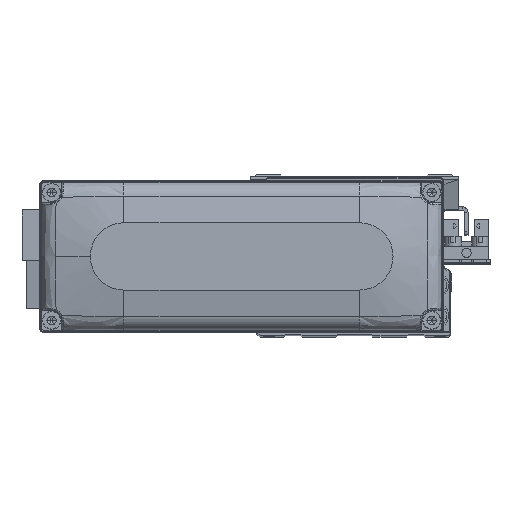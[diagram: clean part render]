
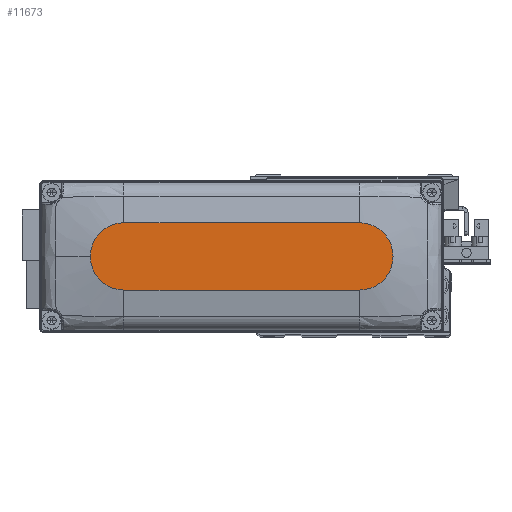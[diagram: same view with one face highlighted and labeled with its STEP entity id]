
A CAD part, top view. The second image highlights one B-rep face of the part: STEP entity #11673.
In plain terms, the highlighted planar face has unit normal (0, 0, 1).
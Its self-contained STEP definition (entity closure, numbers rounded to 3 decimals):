
#266 = LINE ( 'NONE', #13078, #12717 ) ;
#1035 = AXIS2_PLACEMENT_3D ( 'NONE', #13633, #26441, #39232 ) ;
#1201 = VECTOR ( 'NONE', #41446, 1000. ) ;
#4761 = ORIENTED_EDGE ( 'NONE', *, *, #32841, .T. ) ;
#4973 = VERTEX_POINT ( 'NONE', #14653 ) ;
#7475 = CARTESIAN_POINT ( 'NONE',  ( -35., 0., 28. ) ) ;
#7553 = CARTESIAN_POINT ( 'NONE',  ( -35., 10., 28. ) ) ;
#8080 = EDGE_CURVE ( 'NONE', #20126, #4973, #11302, .T. ) ;
#8421 = DIRECTION ( 'NONE',  ( 1., 0., 0. ) ) ;
#8891 = ORIENTED_EDGE ( 'NONE', *, *, #8080, .T. ) ;
#10538 = CARTESIAN_POINT ( 'NONE',  ( 0., 0., 28. ) ) ;
#11302 = CIRCLE ( 'NONE', #34775, 10. ) ;
#11673 = ADVANCED_FACE ( 'NONE', ( #26498 ), #39301, .T. ) ;
#12145 = VERTEX_POINT ( 'NONE', #35901 ) ;
#12717 = VECTOR ( 'NONE', #25902, 1000. ) ;
#13078 = CARTESIAN_POINT ( 'NONE',  ( -35., -10., 28. ) ) ;
#13552 = ORIENTED_EDGE ( 'NONE', *, *, #15063, .T. ) ;
#13633 = CARTESIAN_POINT ( 'NONE',  ( 35., 0., 28. ) ) ;
#14653 = CARTESIAN_POINT ( 'NONE',  ( -35., -10., 28. ) ) ;
#15063 = EDGE_CURVE ( 'NONE', #15836, #20126, #15842, .T. ) ;
#15836 = VERTEX_POINT ( 'NONE', #17863 ) ;
#15842 = LINE ( 'NONE', #28649, #1201 ) ;
#16203 = VERTEX_POINT ( 'NONE', #40239 ) ;
#16844 = CIRCLE ( 'NONE', #40298, 10. ) ;
#17863 = CARTESIAN_POINT ( 'NONE',  ( 35., 10., 28. ) ) ;
#19158 = CIRCLE ( 'NONE', #1035, 10. ) ;
#20126 = VERTEX_POINT ( 'NONE', #7553 ) ;
#20300 = DIRECTION ( 'NONE',  ( 0., 0., 1. ) ) ;
#20867 = EDGE_LOOP ( 'NONE', ( #13552, #8891, #33286, #4761, #22186 ) ) ;
#22186 = ORIENTED_EDGE ( 'NONE', *, *, #30898, .T. ) ;
#23362 = DIRECTION ( 'NONE',  ( 0., 0., 1. ) ) ;
#24413 = CARTESIAN_POINT ( 'NONE',  ( 35., 0., 28. ) ) ;
#25902 = DIRECTION ( 'NONE',  ( 1., 0., 0. ) ) ;
#26441 = DIRECTION ( 'NONE',  ( 0., 0., 1. ) ) ;
#26498 = FACE_OUTER_BOUND ( 'NONE', #20867, .T. ) ;
#28649 = CARTESIAN_POINT ( 'NONE',  ( -35., 10., 28. ) ) ;
#29647 = EDGE_CURVE ( 'NONE', #4973, #16203, #266, .T. ) ;
#30898 = EDGE_CURVE ( 'NONE', #12145, #15836, #16844, .T. ) ;
#32841 = EDGE_CURVE ( 'NONE', #16203, #12145, #19158, .T. ) ;
#33099 = DIRECTION ( 'NONE',  ( 1., 0., 0. ) ) ;
#33286 = ORIENTED_EDGE ( 'NONE', *, *, #29647, .T. ) ;
#34775 = AXIS2_PLACEMENT_3D ( 'NONE', #7475, #20300, #33099 ) ;
#35901 = CARTESIAN_POINT ( 'NONE',  ( 45., 0., 28. ) ) ;
#36169 = DIRECTION ( 'NONE',  ( 1., 0., 0. ) ) ;
#37213 = DIRECTION ( 'NONE',  ( 0., 0., 1. ) ) ;
#38148 = AXIS2_PLACEMENT_3D ( 'NONE', #10538, #23362, #36169 ) ;
#39232 = DIRECTION ( 'NONE',  ( 1., 0., 0. ) ) ;
#39301 = PLANE ( 'NONE',  #38148 ) ;
#40239 = CARTESIAN_POINT ( 'NONE',  ( 35., -10., 28. ) ) ;
#40298 = AXIS2_PLACEMENT_3D ( 'NONE', #24413, #37213, #8421 ) ;
#41446 = DIRECTION ( 'NONE',  ( -1., 0., 0. ) ) ;
